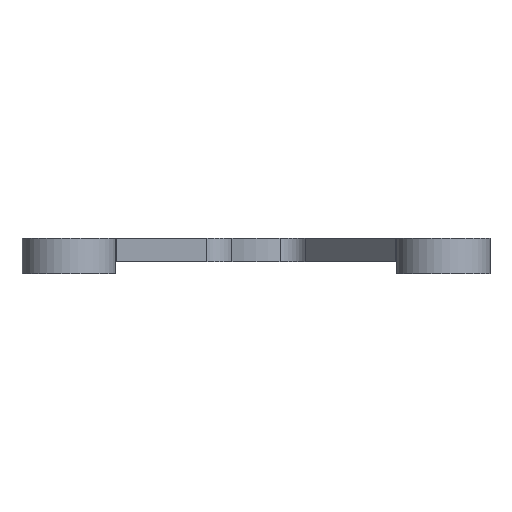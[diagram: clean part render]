
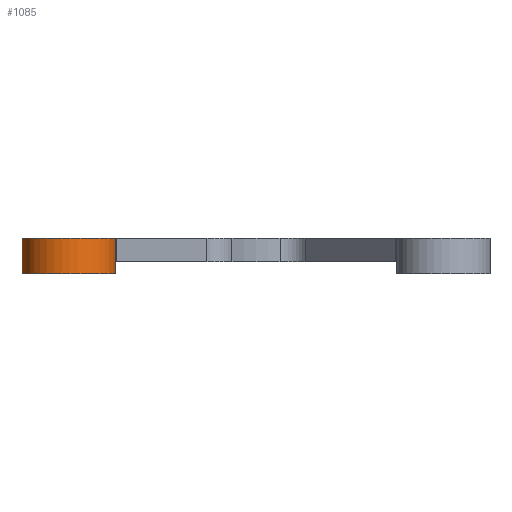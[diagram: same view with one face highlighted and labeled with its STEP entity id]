
A CAD part, front view. The second image highlights one B-rep face of the part: STEP entity #1085.
In plain terms, the highlighted cylindrical face has radius 20 mm (diameter 40 mm), a partial arc.
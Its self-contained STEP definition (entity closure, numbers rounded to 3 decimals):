
#31=CYLINDRICAL_SURFACE('',#1209,20.);
#114=FACE_OUTER_BOUND('',#186,.T.);
#186=EDGE_LOOP('',(#826,#827,#828,#829));
#272=LINE('',#1840,#337);
#273=LINE('',#1841,#338);
#337=VECTOR('',#1439,10.);
#338=VECTOR('',#1440,10.);
#389=CIRCLE('',#1161,20.);
#429=CIRCLE('',#1210,20.);
#479=VERTEX_POINT('',#1704);
#480=VERTEX_POINT('',#1705);
#525=VERTEX_POINT('',#1811);
#528=VERTEX_POINT('',#1825);
#586=EDGE_CURVE('',#479,#480,#389,.T.);
#643=EDGE_CURVE('',#480,#528,#272,.T.);
#644=EDGE_CURVE('',#525,#479,#273,.T.);
#645=EDGE_CURVE('',#528,#525,#429,.T.);
#826=ORIENTED_EDGE('',*,*,#643,.F.);
#827=ORIENTED_EDGE('',*,*,#586,.F.);
#828=ORIENTED_EDGE('',*,*,#644,.F.);
#829=ORIENTED_EDGE('',*,*,#645,.F.);
#1085=ADVANCED_FACE('',(#114),#31,.T.);
#1161=AXIS2_PLACEMENT_3D('',#1706,#1326,#1327);
#1209=AXIS2_PLACEMENT_3D('',#1839,#1437,#1438);
#1210=AXIS2_PLACEMENT_3D('',#1842,#1441,#1442);
#1326=DIRECTION('center_axis',(0.,0.,1.));
#1327=DIRECTION('ref_axis',(1.,0.,0.));
#1437=DIRECTION('center_axis',(0.,0.,-1.));
#1438=DIRECTION('ref_axis',(-0.606,-0.795,0.));
#1439=DIRECTION('',(0.,0.,-1.));
#1440=DIRECTION('',(0.,0.,1.));
#1441=DIRECTION('center_axis',(0.,0.,-1.));
#1442=DIRECTION('ref_axis',(1.,0.,0.));
#1704=CARTESIAN_POINT('',(-79.028,-85.024,0.));
#1705=CARTESIAN_POINT('',(-60.998,-98.761,0.));
#1706=CARTESIAN_POINT('Origin',(-80.,-105.,0.));
#1811=CARTESIAN_POINT('',(-79.028,-85.024,-15.));
#1825=CARTESIAN_POINT('',(-60.998,-98.761,-15.));
#1839=CARTESIAN_POINT('Origin',(-80.,-105.,0.));
#1840=CARTESIAN_POINT('',(-60.998,-98.761,0.));
#1841=CARTESIAN_POINT('',(-79.028,-85.024,0.));
#1842=CARTESIAN_POINT('Origin',(-80.,-105.,-15.));
